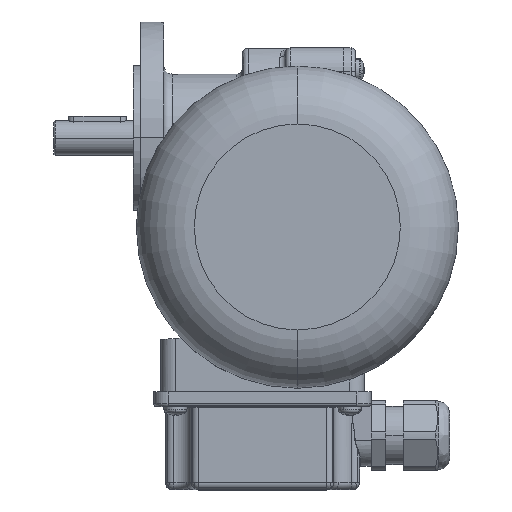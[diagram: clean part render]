
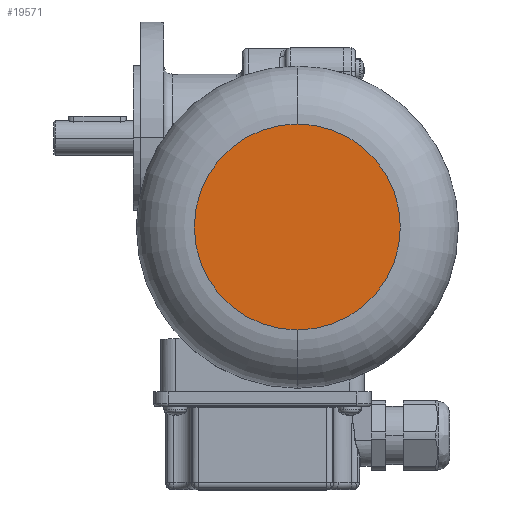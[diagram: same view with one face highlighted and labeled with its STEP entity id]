
A CAD part, top view. The second image highlights one B-rep face of the part: STEP entity #19571.
In plain terms, the highlighted planar face has unit normal (0, 0, 1) as drawn and (-1, 0, 0) by its records, which use the part's own axes.
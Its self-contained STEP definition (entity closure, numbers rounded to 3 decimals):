
#1127 = EDGE_LOOP ( 'NONE', ( #13915, #15441 ) ) ;
#3179 = DIRECTION ( 'NONE',  ( -1., 0., 0. ) ) ;
#5139 = EDGE_CURVE ( 'NONE', #14378, #10471, #22658, .T. ) ;
#7518 = AXIS2_PLACEMENT_3D ( 'NONE', #16160, #3179, #11816 ) ;
#7932 = DIRECTION ( 'NONE',  ( 1., 0., 0. ) ) ;
#9858 = CARTESIAN_POINT ( 'NONE',  ( 0., 0., 0. ) ) ;
#10471 = VERTEX_POINT ( 'NONE', #15378 ) ;
#10984 = AXIS2_PLACEMENT_3D ( 'NONE', #9858, #7932, #24922 ) ;
#11816 = DIRECTION ( 'NONE',  ( 0., 0., -1. ) ) ;
#12245 = FACE_OUTER_BOUND ( 'NONE', #1127, .T. ) ;
#13915 = ORIENTED_EDGE ( 'NONE', *, *, #5139, .T. ) ;
#14378 = VERTEX_POINT ( 'NONE', #24768 ) ;
#14575 = AXIS2_PLACEMENT_3D ( 'NONE', #24767, #22554, #22691 ) ;
#15378 = CARTESIAN_POINT ( 'NONE',  ( 0., 0., 35.5 ) ) ;
#15441 = ORIENTED_EDGE ( 'NONE', *, *, #25823, .T. ) ;
#16160 = CARTESIAN_POINT ( 'NONE',  ( 0., 0., 0. ) ) ;
#19474 = CIRCLE ( 'NONE', #14575, 35.5 ) ;
#19571 = ADVANCED_FACE ( 'NONE', ( #12245 ), #20896, .F. ) ;
#20896 = PLANE ( 'NONE',  #10984 ) ;
#22554 = DIRECTION ( 'NONE',  ( -1., 0., 0. ) ) ;
#22658 = CIRCLE ( 'NONE', #7518, 35.5 ) ;
#22691 = DIRECTION ( 'NONE',  ( 0., 0., -1. ) ) ;
#24767 = CARTESIAN_POINT ( 'NONE',  ( 0., 0., 0. ) ) ;
#24768 = CARTESIAN_POINT ( 'NONE',  ( 0., 0., -35.5 ) ) ;
#24922 = DIRECTION ( 'NONE',  ( 0., 0., -1. ) ) ;
#25823 = EDGE_CURVE ( 'NONE', #10471, #14378, #19474, .T. ) ;
